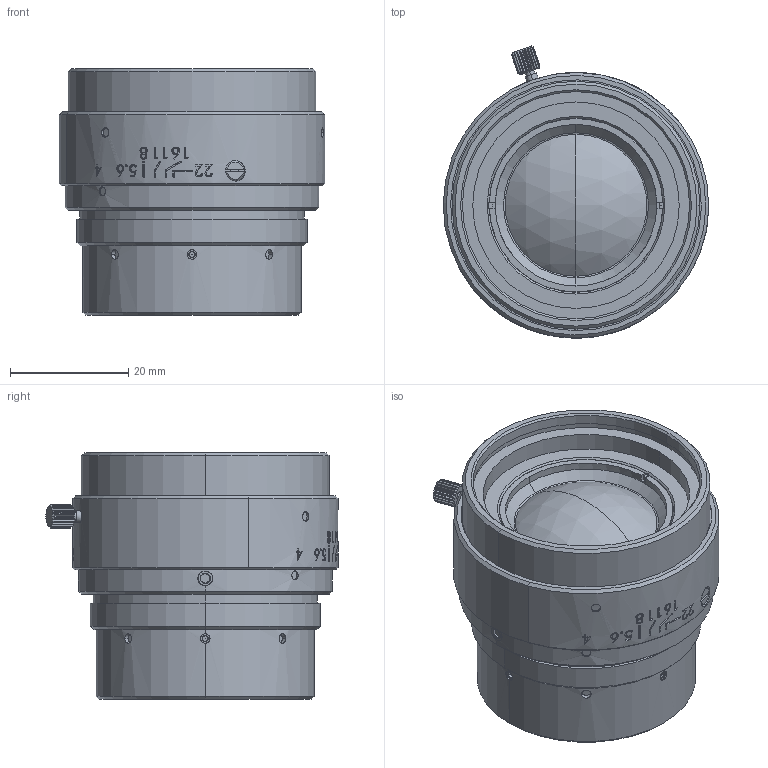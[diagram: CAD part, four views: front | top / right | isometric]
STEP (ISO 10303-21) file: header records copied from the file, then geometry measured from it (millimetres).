
FILE_DESCRIPTION (( 'STEP AP203' ), '1' );
FILE_NAME ('A23873_ML-6040-67M39.STEP', '2021-03-24T03:41:51', ( '' ), ( '' ), 'SwSTEP 2.0', 'SolidWorks 2017', '' );
FILE_SCHEMA (( 'CONFIG_CONTROL_DESIGN' ));
Length unit declared in the file: millimetre
Products named in the file (1): A23873_ML-6040-67M39
Bounding box: 44.99 x 49.51 x 41.79 mm (x, y, z)
Volume: 45369.6 mm3; surface area: 10353.9 mm2
Topology: 1 solids, 1 shells, 753 faces, 1937 edges, 1255 vertices
Faces by surface type: plane 232, cylinder 215, bspline 196, cone 106, sphere 4
Entity records: 39403 total; most frequent: CARTESIAN_POINT 23214, ORIENTED_EDGE 3858, DIRECTION 2464, EDGE_CURVE 1929, VERTEX_POINT 1255, B_SPLINE_CURVE_WITH_KNOTS 964, AXIS2_PLACEMENT_3D 949, EDGE_LOOP 830
